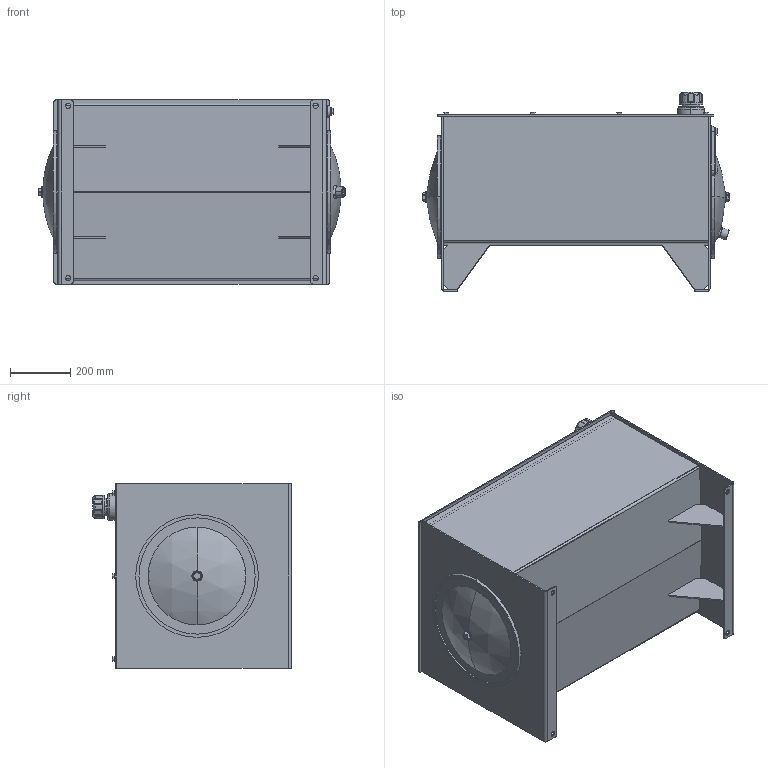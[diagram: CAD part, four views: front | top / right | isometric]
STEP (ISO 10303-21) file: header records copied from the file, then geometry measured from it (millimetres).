
FILE_DESCRIPTION (( 'STEP AP203' ), '1' );
FILE_NAME ('RJIC050-RT.STEP', '2015-01-08T15:46:31', ( '' ), ( '' ), 'SwSTEP 2.0', 'SolidWorks 2014', '' );
FILE_SCHEMA (( 'CONFIG_CONTROL_DESIGN' ));
Length unit declared in the file: inch
Products named in the file (1): RJIC050-RT
Bounding box: 1014.53 x 658.86 x 609.6 mm (x, y, z)
Volume: 13129273 mm3; surface area: 6833276.1 mm2
Topology: 48 solids, 48 shells, 1077 faces, 2465 edges, 1508 vertices
Faces by surface type: plane 404, cylinder 366, torus 123, cone 104, bspline 48, sphere 32
Entity records: 33442 total; most frequent: CARTESIAN_POINT 8500, DIRECTION 5522, ORIENTED_EDGE 4906, EDGE_CURVE 2453, AXIS2_PLACEMENT_3D 2187, VERTEX_POINT 1508, EDGE_LOOP 1245, CIRCLE 1157
